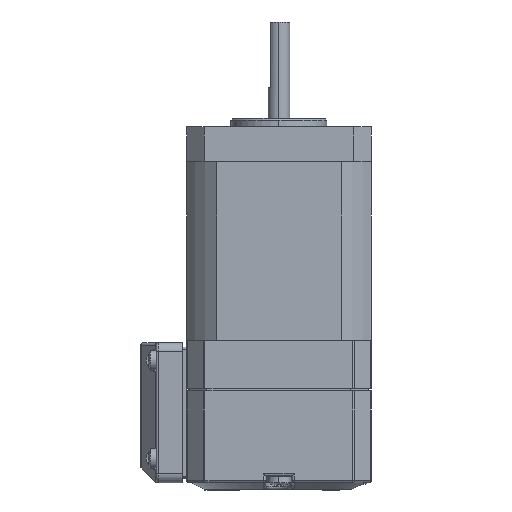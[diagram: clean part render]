
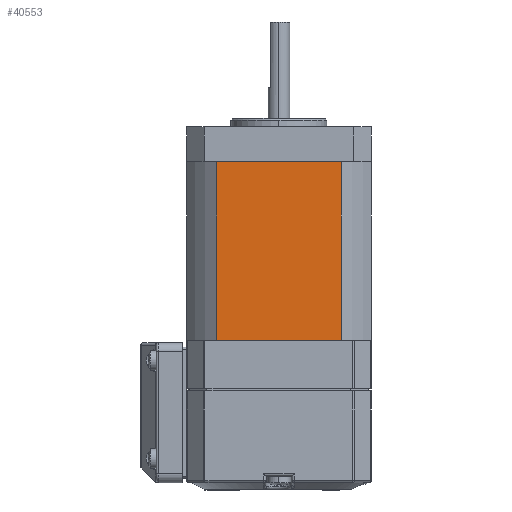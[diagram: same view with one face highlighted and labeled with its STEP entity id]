
A CAD part, left-side view. The second image highlights one B-rep face of the part: STEP entity #40553.
In plain terms, the highlighted planar face has unit normal (-1, 0, 0).
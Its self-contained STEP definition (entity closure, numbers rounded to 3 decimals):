
#608 = ORIENTED_EDGE ( 'NONE', *, *, #24157, .F. ) ;
#2085 = AXIS2_PLACEMENT_3D ( 'NONE', #125558, #66479, #114798 ) ;
#9490 = DIRECTION ( 'NONE',  ( 0., -1., 0. ) ) ;
#10919 = LINE ( 'NONE', #23220, #27875 ) ;
#11620 = CARTESIAN_POINT ( 'NONE',  ( -21.15, 14.245, -305.315 ) ) ;
#14964 = LINE ( 'NONE', #11620, #104545 ) ;
#17632 = PLANE ( 'NONE',  #2085 ) ;
#19935 = LINE ( 'NONE', #87690, #121897 ) ;
#23220 = CARTESIAN_POINT ( 'NONE',  ( -21.15, -14.245, -305.315 ) ) ;
#24157 = EDGE_CURVE ( 'NONE', #84645, #106643, #14964, .T. ) ;
#27875 = VECTOR ( 'NONE', #72472, 1000. ) ;
#40553 = ADVANCED_FACE ( 'NONE', ( #50983 ), #17632, .F. ) ;
#42763 = CARTESIAN_POINT ( 'NONE',  ( -21.15, 14.245, -301.315 ) ) ;
#50376 = ORIENTED_EDGE ( 'NONE', *, *, #110243, .T. ) ;
#50983 = FACE_OUTER_BOUND ( 'NONE', #110023, .T. ) ;
#51816 = DIRECTION ( 'NONE',  ( 0., 0., 1. ) ) ;
#52430 = EDGE_CURVE ( 'NONE', #106643, #52816, #59430, .T. ) ;
#52816 = VERTEX_POINT ( 'NONE', #109976 ) ;
#55850 = EDGE_CURVE ( 'NONE', #52816, #83067, #10919, .T. ) ;
#59430 = LINE ( 'NONE', #118916, #90388 ) ;
#66479 = DIRECTION ( 'NONE',  ( 1., 0., 0. ) ) ;
#72472 = DIRECTION ( 'NONE',  ( 0., 0., -1. ) ) ;
#80635 = ORIENTED_EDGE ( 'NONE', *, *, #52430, .F. ) ;
#83067 = VERTEX_POINT ( 'NONE', #104152 ) ;
#84645 = VERTEX_POINT ( 'NONE', #42763 ) ;
#87690 = CARTESIAN_POINT ( 'NONE',  ( -21.15, 17.15, -301.315 ) ) ;
#90388 = VECTOR ( 'NONE', #99958, 1000. ) ;
#96840 = ORIENTED_EDGE ( 'NONE', *, *, #55850, .F. ) ;
#99958 = DIRECTION ( 'NONE',  ( 0., -1., 0. ) ) ;
#102803 = CARTESIAN_POINT ( 'NONE',  ( -21.15, 14.245, -260.315 ) ) ;
#104152 = CARTESIAN_POINT ( 'NONE',  ( -21.15, -14.245, -301.315 ) ) ;
#104545 = VECTOR ( 'NONE', #51816, 1000. ) ;
#106643 = VERTEX_POINT ( 'NONE', #102803 ) ;
#109976 = CARTESIAN_POINT ( 'NONE',  ( -21.15, -14.245, -260.315 ) ) ;
#110023 = EDGE_LOOP ( 'NONE', ( #608, #50376, #96840, #80635 ) ) ;
#110243 = EDGE_CURVE ( 'NONE', #84645, #83067, #19935, .T. ) ;
#114798 = DIRECTION ( 'NONE',  ( 0., 0., -1. ) ) ;
#118916 = CARTESIAN_POINT ( 'NONE',  ( -21.15, 17.15, -260.315 ) ) ;
#121897 = VECTOR ( 'NONE', #9490, 1000. ) ;
#125558 = CARTESIAN_POINT ( 'NONE',  ( -21.15, 17.15, -259.315 ) ) ;
